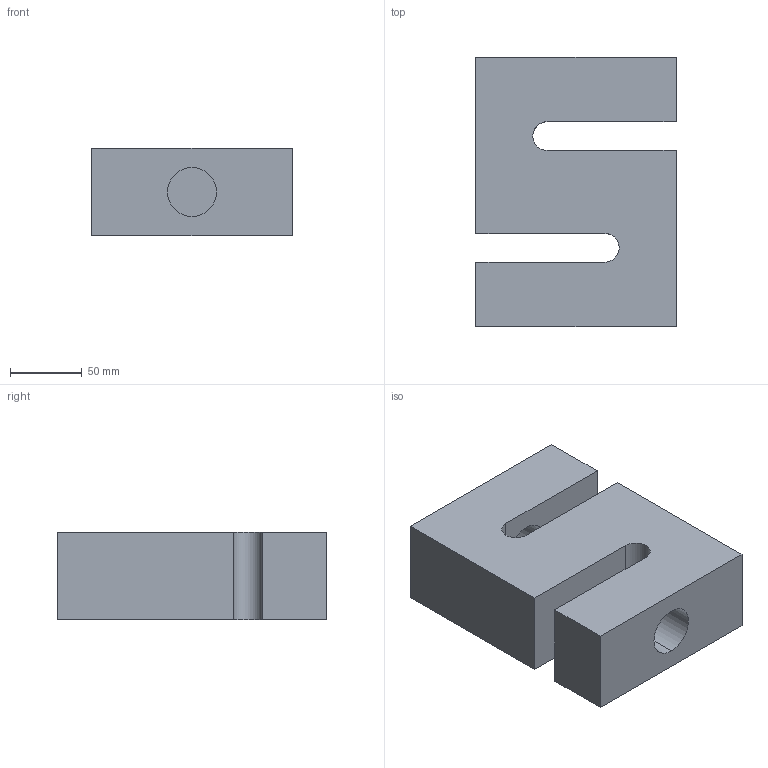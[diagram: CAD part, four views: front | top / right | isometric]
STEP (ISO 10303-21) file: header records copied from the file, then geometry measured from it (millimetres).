
FILE_DESCRIPTION (( 'STEP AP203' ), '1' );
FILE_NAME ('ras1-40000 kg.STEP', '2018-03-30T04:40:44', ( '' ), ( '' ), 'SwSTEP 2.0', 'SolidWorks 2016', '' );
FILE_SCHEMA (( 'CONFIG_CONTROL_DESIGN' ));
Length unit declared in the file: inch
Products named in the file (1): ras1-40000 kg
Bounding box: 139.7 x 187.96 x 60.96 mm (x, y, z)
Volume: 1279730.2 mm3; surface area: 113964.1 mm2
Topology: 1 solids, 1 shells, 19 faces, 51 edges, 34 vertices
Faces by surface type: plane 12, cylinder 7
Entity records: 686 total; most frequent: CARTESIAN_POINT 105, DIRECTION 105, ORIENTED_EDGE 102, EDGE_CURVE 51, LINE 37, VECTOR 37, AXIS2_PLACEMENT_3D 34, VERTEX_POINT 34
